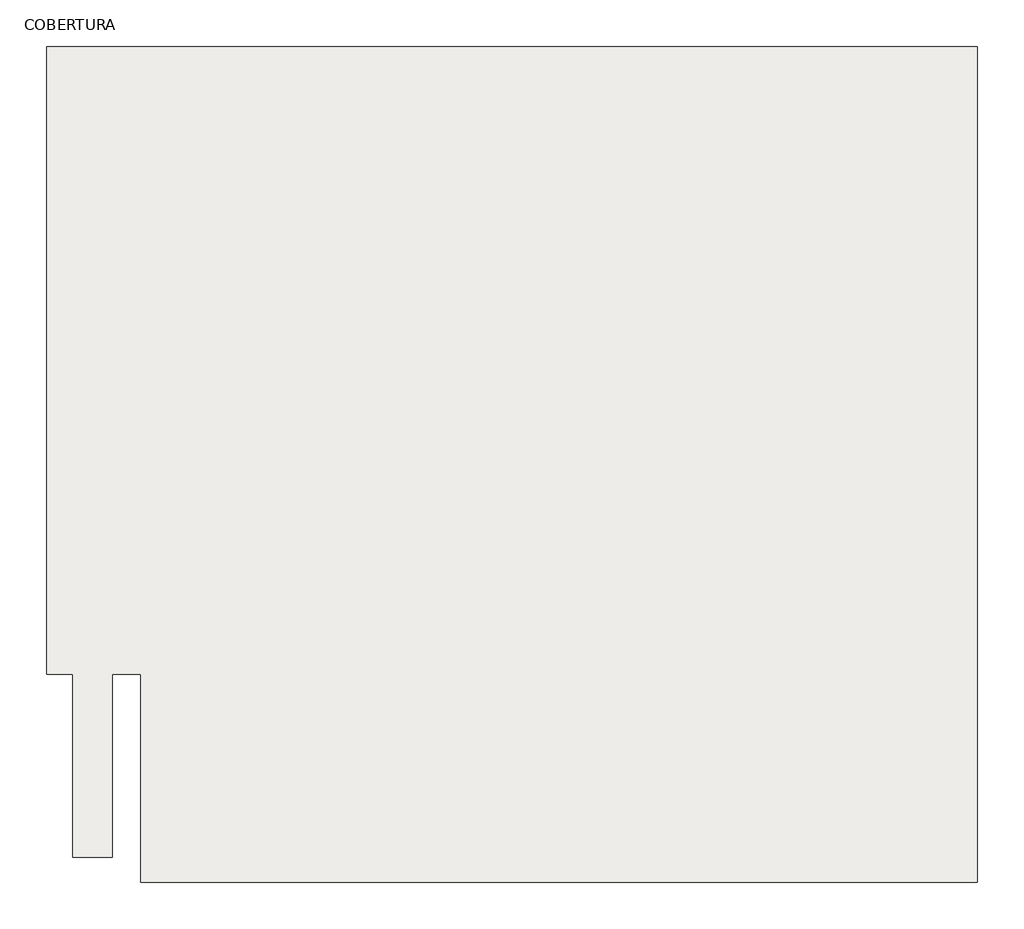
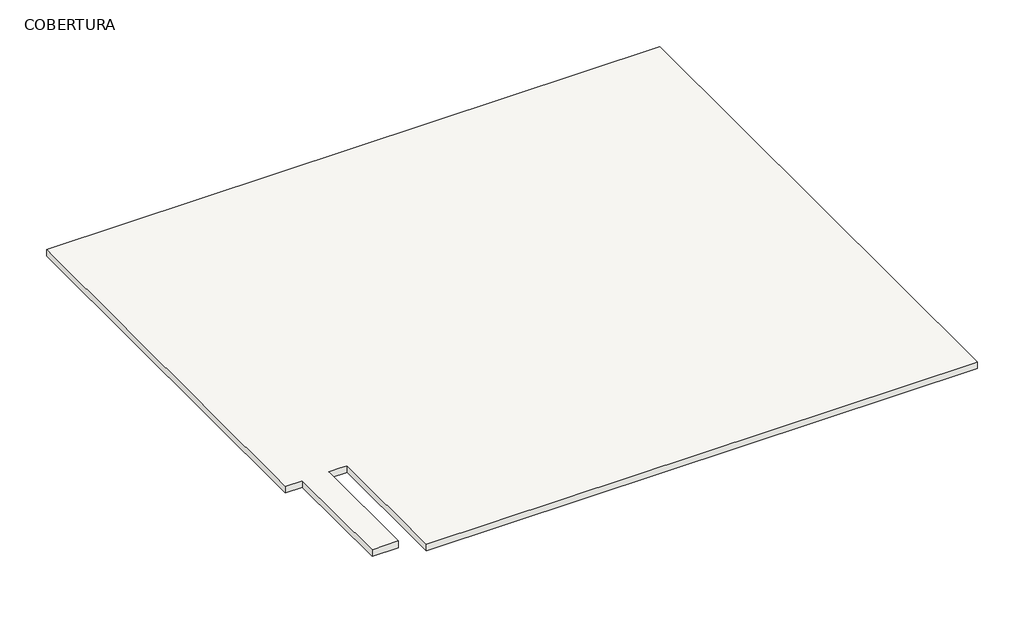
# One storey: 1 slab.
"""IFC4 building model written with IfcOpenShell, lengths in millimetres."""

from ifc_helpers import new_model, si_unit, origin, place, context, project, spatial, faceted_brep, element, save

model = new_model("IFC4")

# Units and contexts
model_context = context("Model", 3, world=origin())
ifc_project = project(units=[si_unit("LENGTHUNIT", "METRE", prefix="MILLI")], contexts=[model_context])

# Site, building, storey
site = spatial("IfcSite", under=ifc_project)
building = spatial("IfcBuilding", under=site)
storey = spatial("IfcBuildingStorey", under=building, Name="COBERTURA", Elevation=6500.0)

# Slab
placement = place(None, origin())
element("IfcSlab", 1, ObjectType="piso de concreto 10cm 2", at=placement, inside=storey, context=model_context, shape_type="Brep", body=[
    faceted_brep([(458.4881645, 2766.0881727, 6400.0), (458.4881645, -4974.1715676, 6400.0), (458.4881645, -5222.323709, 6400.0), (-7540.3900469, -5222.323709, 6400.0), (-7540.3900469, -4974.1715676, 6400.0), (-7540.3900469, -3233.9118273, 6400.0), (-7810.3900469, -3233.9118273, 6400.0), (-7810.3900469, -4983.9118273, 6400.0), (-8190.3900469, -4983.9118273, 6400.0), (-8190.3900469, -3233.9118273, 6400.0), (-8440.3900469, -3233.9118273, 6400.0), (-8440.3900469, -3203.9118273, 6400.0), (-8440.3900469, 2596.0881727, 6400.0), (-8440.3900469, 2766.0881727, 6400.0), (288.4881645, 2766.0881727, 6400.0), (458.4881645, 2766.0881727, 6500.0), (-8440.3900469, 2766.0881727, 6500.0), (-8440.3900469, -3233.9118273, 6500.0), (-8190.3900469, -3233.9118273, 6500.0), (-8190.3900469, -4983.9118273, 6500.0), (-7810.3900469, -4983.9118273, 6500.0), (-7810.3900469, -3233.9118273, 6500.0), (-7640.3900469, -3233.9118273, 6500.0), (-7540.3900469, -3233.9118273, 6500.0), (-7540.3900469, -5222.323709, 6500.0), (422.5568971, -5222.323709, 6500.0), (458.4881645, -5222.323709, 6500.0), (458.4881645, -5222.323709, 6495.5385744), (-7540.3900469, -5222.323709, 6495.5385744)], [[[0, 1, 2, 3, 4, 5, 6, 7, 8, 9, 10, 11, 12, 13, 14]], [[15, 16, 17, 18, 19, 20, 21, 22, 23, 24, 25, 26]], [[2, 1, 0, 15, 26, 27]], [[13, 12, 11, 10, 17, 16]], [[0, 14, 13, 16, 15]], [[3, 2, 27, 26, 25, 24, 28]], [[5, 4, 3, 28, 24, 23]], [[6, 5, 23, 22, 21]], [[7, 6, 21, 20]], [[8, 7, 20, 19]], [[9, 8, 19, 18]], [[10, 9, 18, 17]]]),
])

save(model, "model.ifc")
